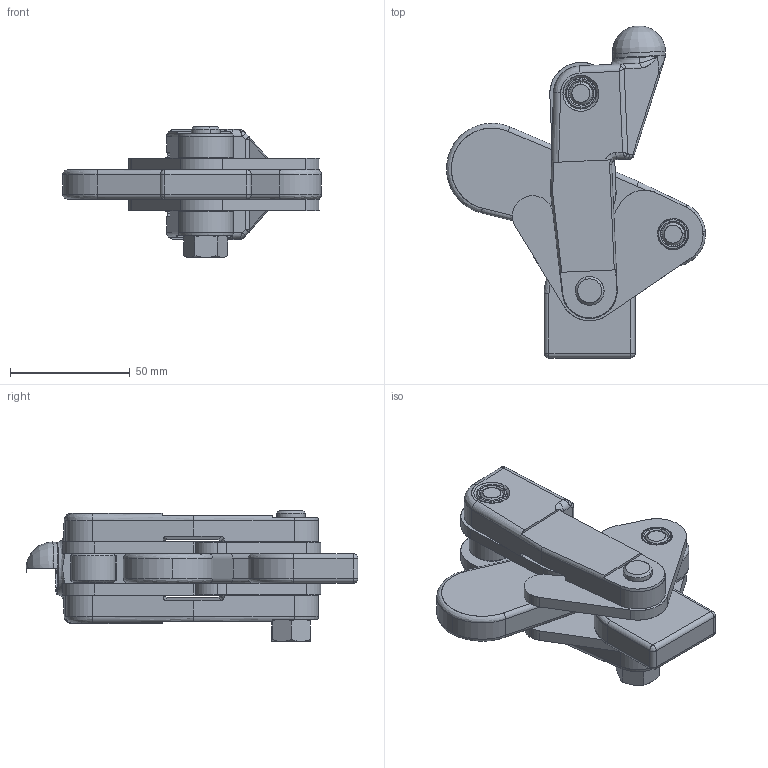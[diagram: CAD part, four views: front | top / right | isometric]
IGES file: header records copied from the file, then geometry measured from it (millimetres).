
Start section: SolidWorks IGES file using analytic representation for surfaces
Global section: file name: D:\GH Files\GH-SW-FILES\GH7\70505,70510,70515\70510.IGS; native system: SolidWorks 2006 by SolidWorks Corporation; preprocessor: SolidWorks 2006 by SolidWorks Corporation; author: Administrator; date: 060705.132350; units: millimetre
Bounding box: 108.12 x 138.71 x 54.6 mm (x, y, z)
Surface area: 64947.8 mm2 (no closed solid volume)
Topology: 0 solids, 0 shells, 418 faces, 5654 edges, 5648 vertices
Faces by surface type: revolution 278, bspline 140
